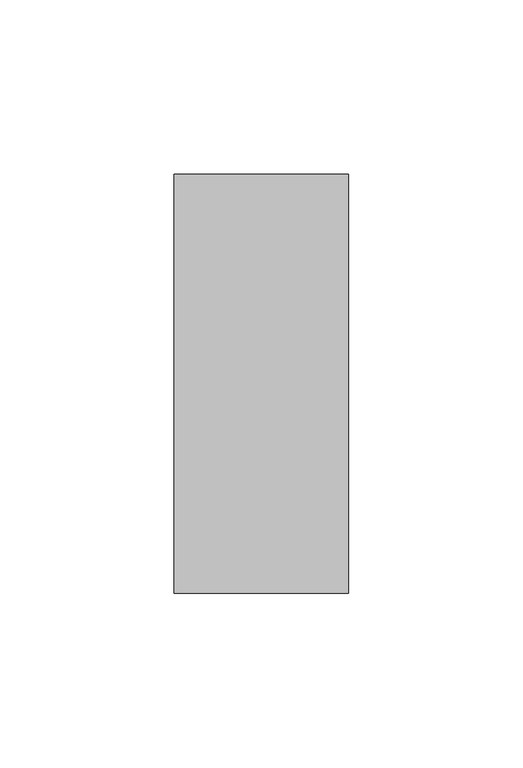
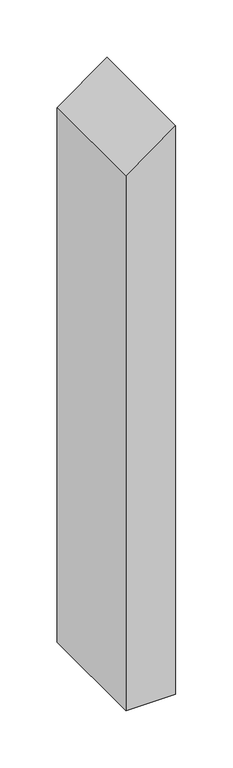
"""IFC4 building model written with IfcOpenShell, lengths in millimetres: member geometry, Прямоугольный импост : 50х120 мм."""

from ifc_helpers import new_model, si_unit, frame, origin, place, context, project, spatial, polyline, outline, extrude, source, transform, mapped, element, save


def member_37b4f0c1(model_context):
    return source(origin(), model_context, "Body", "SweptSolid", [
        extrude(outline(polyline([(0.0, 0.0), (-36.3271264, -50.0), (-604.5907789, -50.0), (-604.5907789, 0.0), (0.0, 0.0)])), frame((0.0, -60.0, 0.0), z_axis=(0.0, 1.0, 0.0), x_axis=(0.0, 0.0, 1.0)), (0.0, 0.0, 1.0), 120.0),
    ])


if __name__ == "__main__":
    model = new_model("IFC4")
    model_context = context("Model", 3, world=origin())
    ifc_project = project(units=[si_unit("LENGTHUNIT", "METRE", prefix="MILLI")], contexts=[model_context])
    site = spatial("IfcSite", under=ifc_project)
    building = spatial("IfcBuilding", under=site)
    placement = place(None, origin())
    member_shape = member_37b4f0c1(model_context)
    element("IfcMember", 1, ObjectType="Прямоугольный импост : 50х120 мм", at=placement, inside=building, context=model_context, shape_type="MappedRepresentation", body=[
        mapped(member_shape, transform((0.0, 0.0, 0.0), x_axis=(1.0, 0.0, 0.0), y_axis=(0.0, 1.0, 0.0), z_axis=(0.0, 0.0, 1.0))),
    ])
    save(model, "model.ifc")
